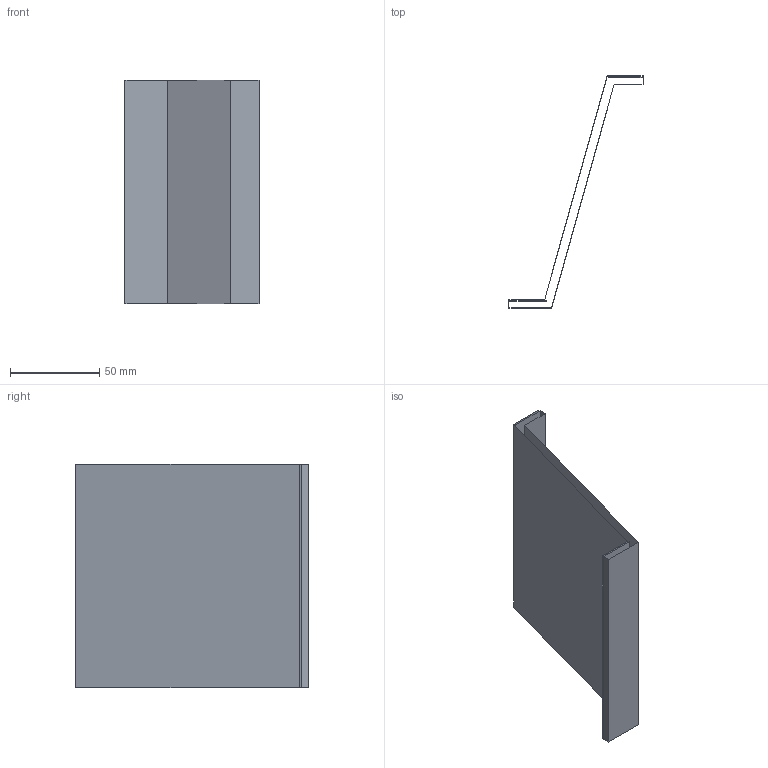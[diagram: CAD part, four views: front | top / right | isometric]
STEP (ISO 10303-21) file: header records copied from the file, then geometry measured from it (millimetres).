
FILE_DESCRIPTION(('CATIA V5 STEP Exchange'),'2;1');
FILE_NAME('C:\_Andres\UNIVERSIDAD\IQS\ASIGNATURAS\DAO\EXF\EXF-16172c\2inicio\Quiroga_Garcia_Ej06_v25.stp','2017-03-05T21:01:27+00:00',('none'),('none'),'CATIA Version 5-6 Release 2014 SP1 HF18','CATIA V5 STEP AP203','none');
FILE_SCHEMA(('CONFIG_CONTROL_DESIGN'));
Length unit declared in the file: millimetre
Products named in the file (1): Quiroga_Garcia_Ej06_v25
Bounding box: 75 x 130 x 125 mm (x, y, z)
Surface area: 48451.9 mm2 (no closed solid volume)
Topology: 0 solids, 2 shells, 10 faces, 42 edges, 36 vertices
Faces by surface type: plane 10
Entity records: 461 total; most frequent: CARTESIAN_POINT 100, DIRECTION 59, ORIENTED_EDGE 40, VECTOR 39, LINE 39, EDGE_CURVE 32, VERTEX_POINT 24, AXIS2_PLACEMENT_3D 11
